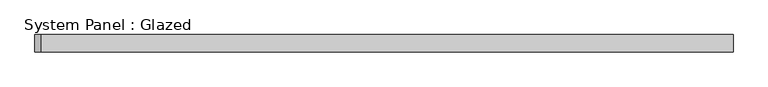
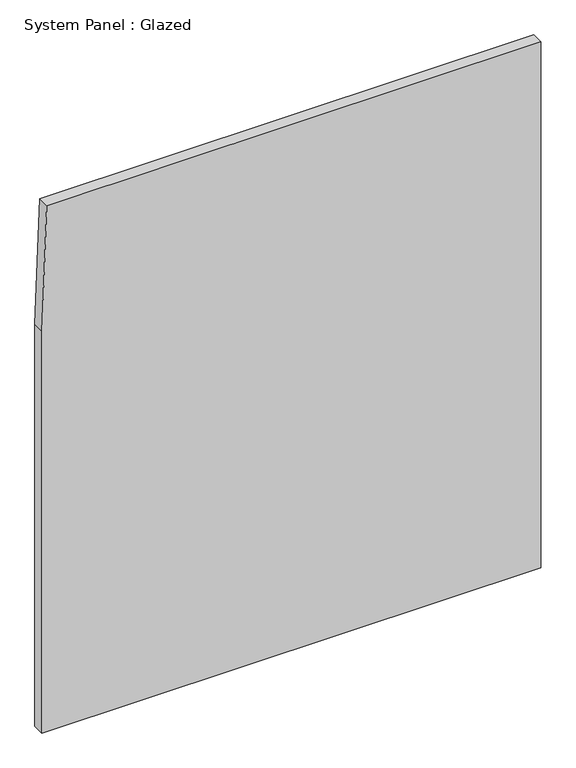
"""IFC4 building model written with IfcOpenShell, lengths in millimetres: plate geometry, System Panel : Glazed."""

from ifc_helpers import new_model, si_unit, point, frame, frame_2d, origin, place, context, project, spatial, polyline, circle_curve, trimmed, segment, composite_curve, outline, extrude, source, transform, mapped, element, save


def system_panel_glazed_9b633421(model_context):
    return source(origin(), model_context, "Body", "SweptSolid", [
        extrude(outline(composite_curve([segment(polyline([(0.0, -518.432143), (0.0, 518.432143), (1155.7, 518.432143), (1155.7, -508.8591937)]), True, "CONTINUOUS"), segment(trimmed(circle_curve(frame_2d((882.65, 3380.467857)), 3898.9), [point((1155.7, -508.8591937))], [point((882.65, -518.432143))], False, "CARTESIAN"), True, "CONTINUOUS"), segment(polyline([(882.65, -518.432143), (0.0, -518.432143)]), True, "CONTINUOUS")], self_intersect=False)), frame((0.0, 19.05, 0.0), z_axis=(0.0, 1.0, 0.0), x_axis=(0.0, 0.0, 1.0)), (0.0, 0.0, 1.0), 25.4),
    ])


if __name__ == "__main__":
    model = new_model("IFC4")
    model_context = context("Model", 3, world=origin())
    ifc_project = project(units=[si_unit("LENGTHUNIT", "METRE", prefix="MILLI")], contexts=[model_context])
    site = spatial("IfcSite", under=ifc_project)
    building = spatial("IfcBuilding", under=site)
    placement = place(None, origin())
    system_panel_glazed_shape = system_panel_glazed_9b633421(model_context)
    element("IfcPlate", 1, ObjectType="System Panel : Glazed", at=placement, inside=building, context=model_context, shape_type="MappedRepresentation", body=[
        mapped(system_panel_glazed_shape, transform((0.0, 0.0, 0.0), x_axis=(1.0, 0.0, 0.0), y_axis=(0.0, 1.0, 0.0), z_axis=(0.0, 0.0, 1.0))),
    ])
    save(model, "model.ifc")
